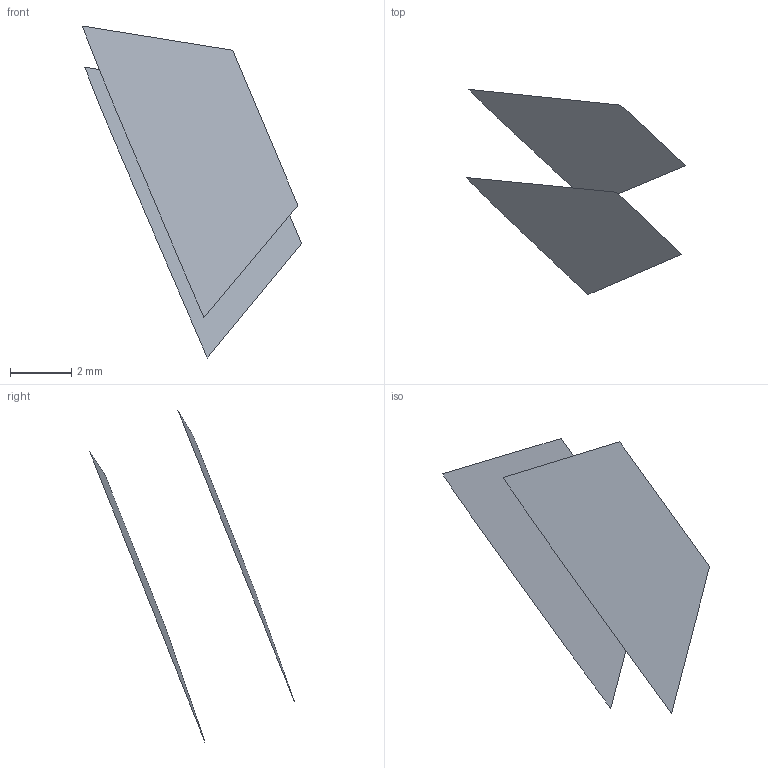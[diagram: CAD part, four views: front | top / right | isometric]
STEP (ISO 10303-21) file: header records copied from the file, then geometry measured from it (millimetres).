
FILE_DESCRIPTION(('FreeCAD Model'),'2;1');
FILE_NAME('Open CASCADE Shape Model','2022-05-22T07:50:31',('FreeCAD'),( 'FreeCAD'),'Open CASCADE STEP processor 7.5','FreeCAD','Unknown');
FILE_SCHEMA(('AUTOMOTIVE_DESIGN { 1 0 10303 214 1 1 1 1 }'));
Length unit declared in the file: millimetre
Products named in the file (3): Open CASCADE STEP translator 7.5 10; Open CASCADE STEP translator 7.5 10.1; Open CASCADE STEP translator 7.5 10.2
Assembly tree (2 placements, depth 2):
  Open CASCADE STEP translator 7.5 10
    Open CASCADE STEP translator 7.5 10.1
    Open CASCADE STEP translator 7.5 10.2
Bounding box: 7.16 x 6.69 x 10.84 mm (x, y, z)
Surface area: 72.4 mm2 (no closed solid volume)
Topology: 0 solids, 2 shells, 2 faces, 41 edges, 41 vertices
Faces by surface type: bspline 2
Entity records: 605 total; most frequent: CARTESIAN_POINT 216, B_SPLINE_CURVE_WITH_KNOTS 82, ORIENTED_EDGE 41, EDGE_CURVE 41, VERTEX_POINT 41, SURFACE_CURVE 41, PCURVE 41, DEFINITIONAL_REPRESENTATION 41
